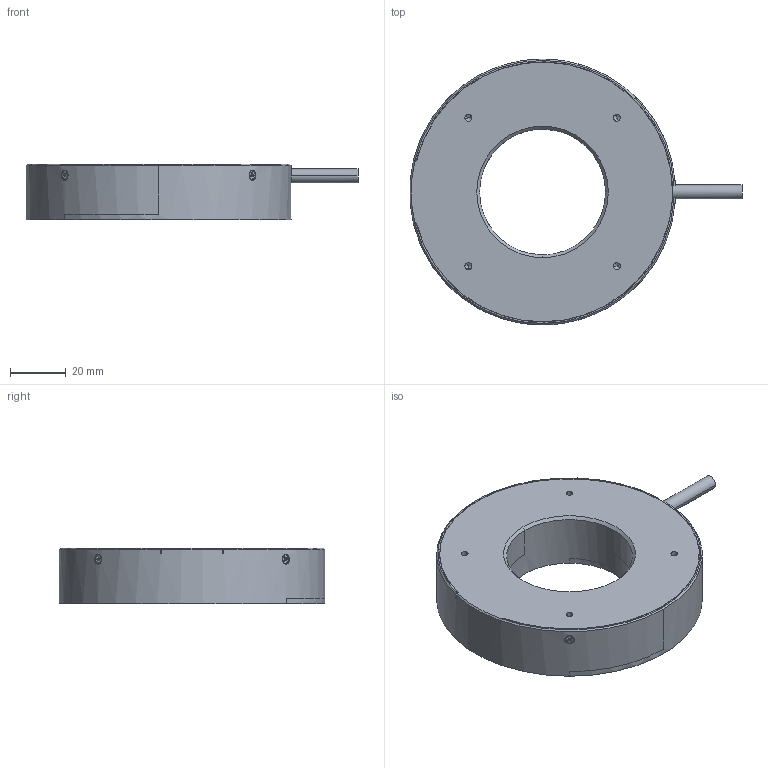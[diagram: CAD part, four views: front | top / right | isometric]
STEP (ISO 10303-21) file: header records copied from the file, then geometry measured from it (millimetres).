
FILE_DESCRIPTION((''),'2;1');
FILE_NAME('MV-LRDS-H-95-90-W','2022-09-02T14:35:01',('qiaoxuan5'),(''),'CREO PARAMETRIC BY PTC INC, 2020044','CREO PARAMETRIC BY PTC INC, 2020044','');
FILE_SCHEMA(('CONFIG_CONTROL_DESIGN'));
Length unit declared in the file: metre
Products named in the file (1): MV-LRDS-H-95-90-W
Bounding box: 118.61 x 95 x 20 mm (x, y, z)
Volume: 109192.9 mm3; surface area: 25315.3 mm2
Topology: 1 solids, 13 shells, 466 faces, 1156 edges, 710 vertices
Faces by surface type: plane 264, cylinder 124, cone 78
Entity records: 13968 total; most frequent: CARTESIAN_POINT 2962, ORIENTED_EDGE 2272, DIRECTION 2257, EDGE_CURVE 1136, AXIS2_PLACEMENT_3D 768, VECTOR 721, LINE 721, VERTEX_POINT 710
